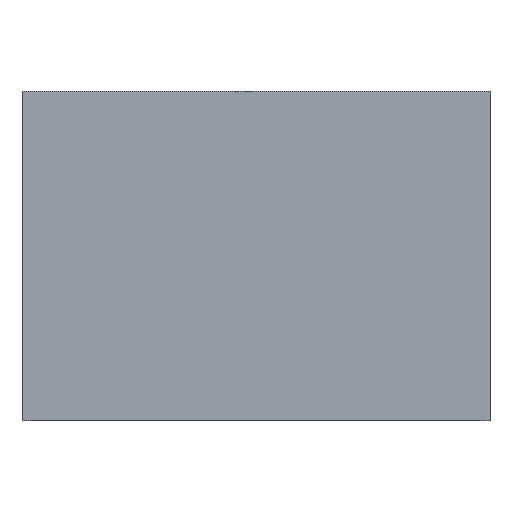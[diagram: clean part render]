
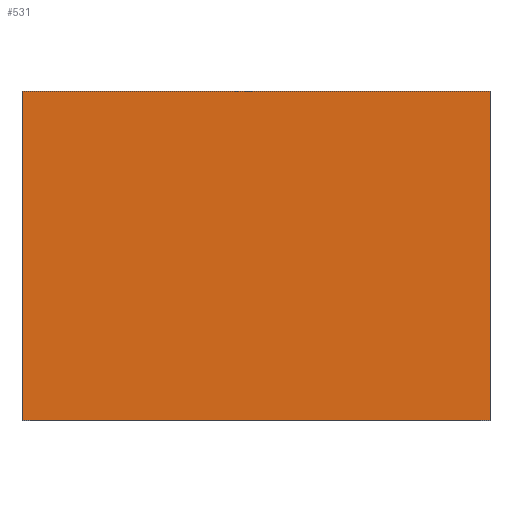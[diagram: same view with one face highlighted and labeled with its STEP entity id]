
A CAD part, top view. The second image highlights one B-rep face of the part: STEP entity #531.
In plain terms, the highlighted planar face has unit normal (0, 0, 1).
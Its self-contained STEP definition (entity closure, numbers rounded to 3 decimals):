
#24 = VERTEX_POINT('',#25);
#25 = CARTESIAN_POINT('',(0.,3.,100.));
#32 = PLANE('',#33);
#33 = AXIS2_PLACEMENT_3D('',#34,#35,#36);
#34 = CARTESIAN_POINT('',(0.,3.,0.));
#35 = DIRECTION('',(1.,0.,0.));
#36 = DIRECTION('',(0.,0.,1.));
#44 = PLANE('',#45);
#45 = AXIS2_PLACEMENT_3D('',#46,#47,#48);
#46 = CARTESIAN_POINT('',(0.,3.,0.));
#47 = DIRECTION('',(0.,1.,0.));
#48 = DIRECTION('',(0.,0.,1.));
#85 = VERTEX_POINT('',#86);
#86 = CARTESIAN_POINT('',(0.,112.,100.));
#100 = PLANE('',#101);
#101 = AXIS2_PLACEMENT_3D('',#102,#103,#104);
#102 = CARTESIAN_POINT('',(0.,112.,0.));
#103 = DIRECTION('',(0.,1.,0.));
#104 = DIRECTION('',(0.,0.,1.));
#112 = EDGE_CURVE('',#24,#85,#113,.T.);
#113 = SURFACE_CURVE('',#114,(#118,#125),.PCURVE_S1.);
#114 = LINE('',#115,#116);
#115 = CARTESIAN_POINT('',(0.,3.,100.));
#116 = VECTOR('',#117,1.);
#117 = DIRECTION('',(0.,1.,0.));
#118 = PCURVE('',#32,#119);
#119 = DEFINITIONAL_REPRESENTATION('',(#120),#124);
#120 = LINE('',#121,#122);
#121 = CARTESIAN_POINT('',(100.,0.));
#122 = VECTOR('',#123,1.);
#123 = DIRECTION('',(0.,-1.));
#124 = ( GEOMETRIC_REPRESENTATION_CONTEXT(2) 
PARAMETRIC_REPRESENTATION_CONTEXT() REPRESENTATION_CONTEXT('2D SPACE',''
  ) );
#125 = PCURVE('',#126,#131);
#126 = PLANE('',#127);
#127 = AXIS2_PLACEMENT_3D('',#128,#129,#130);
#128 = CARTESIAN_POINT('',(0.,3.,100.));
#129 = DIRECTION('',(0.,0.,1.));
#130 = DIRECTION('',(1.,0.,0.));
#131 = DEFINITIONAL_REPRESENTATION('',(#132),#136);
#132 = LINE('',#133,#134);
#133 = CARTESIAN_POINT('',(0.,0.));
#134 = VECTOR('',#135,1.);
#135 = DIRECTION('',(0.,1.));
#136 = ( GEOMETRIC_REPRESENTATION_CONTEXT(2) 
PARAMETRIC_REPRESENTATION_CONTEXT() REPRESENTATION_CONTEXT('2D SPACE',''
  ) );
#377 = EDGE_CURVE('',#24,#378,#380,.T.);
#378 = VERTEX_POINT('',#379);
#379 = CARTESIAN_POINT('',(155.,3.,100.));
#380 = SURFACE_CURVE('',#381,(#385,#392),.PCURVE_S1.);
#381 = LINE('',#382,#383);
#382 = CARTESIAN_POINT('',(0.,3.,100.));
#383 = VECTOR('',#384,1.);
#384 = DIRECTION('',(1.,0.,0.));
#385 = PCURVE('',#44,#386);
#386 = DEFINITIONAL_REPRESENTATION('',(#387),#391);
#387 = LINE('',#388,#389);
#388 = CARTESIAN_POINT('',(100.,0.));
#389 = VECTOR('',#390,1.);
#390 = DIRECTION('',(0.,1.));
#391 = ( GEOMETRIC_REPRESENTATION_CONTEXT(2) 
PARAMETRIC_REPRESENTATION_CONTEXT() REPRESENTATION_CONTEXT('2D SPACE',''
  ) );
#392 = PCURVE('',#126,#393);
#393 = DEFINITIONAL_REPRESENTATION('',(#394),#398);
#394 = LINE('',#395,#396);
#395 = CARTESIAN_POINT('',(0.,0.));
#396 = VECTOR('',#397,1.);
#397 = DIRECTION('',(1.,0.));
#398 = ( GEOMETRIC_REPRESENTATION_CONTEXT(2) 
PARAMETRIC_REPRESENTATION_CONTEXT() REPRESENTATION_CONTEXT('2D SPACE',''
  ) );
#414 = PLANE('',#415);
#415 = AXIS2_PLACEMENT_3D('',#416,#417,#418);
#416 = CARTESIAN_POINT('',(155.,3.,0.));
#417 = DIRECTION('',(1.,0.,0.));
#418 = DIRECTION('',(0.,0.,1.));
#531 = ADVANCED_FACE('',(#532),#126,.T.);
#532 = FACE_BOUND('',#533,.T.);
#533 = EDGE_LOOP('',(#534,#535,#536,#559));
#534 = ORIENTED_EDGE('',*,*,#112,.F.);
#535 = ORIENTED_EDGE('',*,*,#377,.T.);
#536 = ORIENTED_EDGE('',*,*,#537,.T.);
#537 = EDGE_CURVE('',#378,#538,#540,.T.);
#538 = VERTEX_POINT('',#539);
#539 = CARTESIAN_POINT('',(155.,112.,100.));
#540 = SURFACE_CURVE('',#541,(#545,#552),.PCURVE_S1.);
#541 = LINE('',#542,#543);
#542 = CARTESIAN_POINT('',(155.,3.,100.));
#543 = VECTOR('',#544,1.);
#544 = DIRECTION('',(0.,1.,0.));
#545 = PCURVE('',#126,#546);
#546 = DEFINITIONAL_REPRESENTATION('',(#547),#551);
#547 = LINE('',#548,#549);
#548 = CARTESIAN_POINT('',(155.,0.));
#549 = VECTOR('',#550,1.);
#550 = DIRECTION('',(0.,1.));
#551 = ( GEOMETRIC_REPRESENTATION_CONTEXT(2) 
PARAMETRIC_REPRESENTATION_CONTEXT() REPRESENTATION_CONTEXT('2D SPACE',''
  ) );
#552 = PCURVE('',#414,#553);
#553 = DEFINITIONAL_REPRESENTATION('',(#554),#558);
#554 = LINE('',#555,#556);
#555 = CARTESIAN_POINT('',(100.,0.));
#556 = VECTOR('',#557,1.);
#557 = DIRECTION('',(0.,-1.));
#558 = ( GEOMETRIC_REPRESENTATION_CONTEXT(2) 
PARAMETRIC_REPRESENTATION_CONTEXT() REPRESENTATION_CONTEXT('2D SPACE',''
  ) );
#559 = ORIENTED_EDGE('',*,*,#560,.F.);
#560 = EDGE_CURVE('',#85,#538,#561,.T.);
#561 = SURFACE_CURVE('',#562,(#566,#573),.PCURVE_S1.);
#562 = LINE('',#563,#564);
#563 = CARTESIAN_POINT('',(0.,112.,100.));
#564 = VECTOR('',#565,1.);
#565 = DIRECTION('',(1.,0.,0.));
#566 = PCURVE('',#126,#567);
#567 = DEFINITIONAL_REPRESENTATION('',(#568),#572);
#568 = LINE('',#569,#570);
#569 = CARTESIAN_POINT('',(0.,109.));
#570 = VECTOR('',#571,1.);
#571 = DIRECTION('',(1.,0.));
#572 = ( GEOMETRIC_REPRESENTATION_CONTEXT(2) 
PARAMETRIC_REPRESENTATION_CONTEXT() REPRESENTATION_CONTEXT('2D SPACE',''
  ) );
#573 = PCURVE('',#100,#574);
#574 = DEFINITIONAL_REPRESENTATION('',(#575),#579);
#575 = LINE('',#576,#577);
#576 = CARTESIAN_POINT('',(100.,0.));
#577 = VECTOR('',#578,1.);
#578 = DIRECTION('',(0.,1.));
#579 = ( GEOMETRIC_REPRESENTATION_CONTEXT(2) 
PARAMETRIC_REPRESENTATION_CONTEXT() REPRESENTATION_CONTEXT('2D SPACE',''
  ) );
